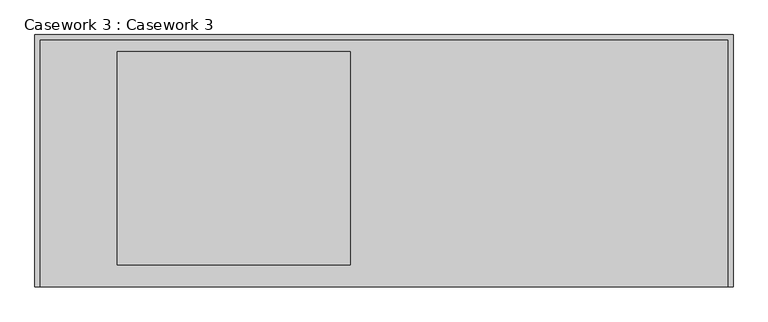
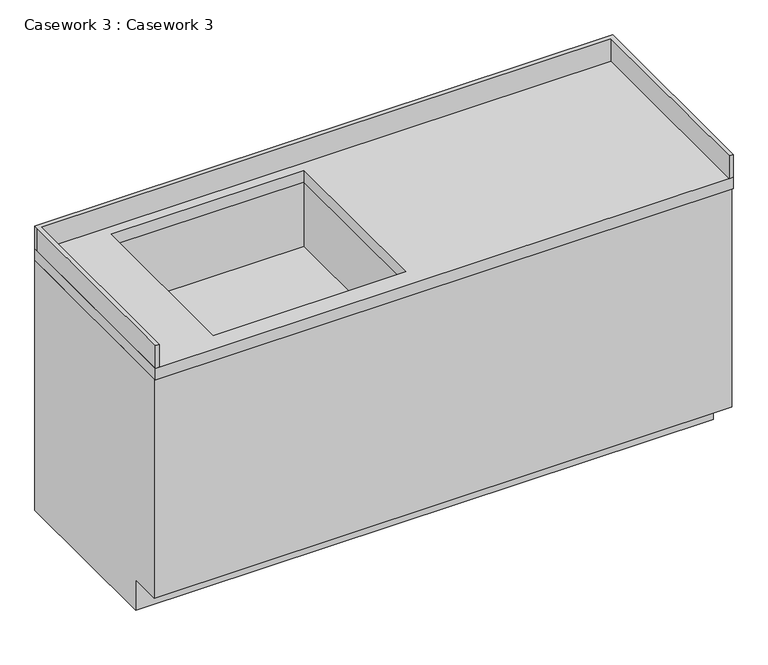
"""IFC4 building model written with IfcOpenShell, lengths in millimetres: furniture geometry, Casework 3 : Casework 3."""

from ifc_helpers import new_model, si_unit, frame, origin, place, context, project, spatial, polyline, outline, extrude, faceted_brep, source, transform, mapped, element, save


def casework_3_casework_3_20c6afee(model_context):
    return source(origin(), model_context, "Body", "SolidModel", [
        extrude(outline(polyline([(4191.0, 14414.3947939), (4191.0, 14427.0947939), (6019.8, 14427.0947939), (6019.8, 13766.6947939), (6007.1, 13766.6947939), (6007.1, 14414.3947939), (4203.7, 14414.3947939), (4203.7, 13766.6947939), (4191.0, 13766.6947939), (4191.0, 14414.3947939)])), frame((0.0, 0.0, 4127.5), z_axis=(0.0, 0.0, 1.0), x_axis=(1.0, 0.0, 0.0)), (0.0, 0.0, 1.0), 76.2),
        extrude(outline(polyline([(6019.8, 14427.0947939), (6019.8, 13766.6947939), (4191.0, 13766.6947939), (4191.0, 14427.0947939), (6019.8, 14427.0947939)]), holes=[polyline([(4406.9, 14382.6447939), (4406.9, 13823.8447939), (5016.5, 13823.8447939), (5016.5, 14382.6447939), (4406.9, 14382.6447939)])]), frame((0.0, 0.0, 4089.4), z_axis=(0.0, 0.0, 1.0), x_axis=(1.0, 0.0, 0.0)), (0.0, 0.0, 1.0), 38.1),
        faceted_brep([(6019.8, 14427.0947939, 4089.4), (4191.0, 14427.0947939, 4089.4), (4191.0, 13773.0447939, 4089.4), (6019.8, 13773.0447939, 4089.4), (4406.9, 13823.8447939, 4089.4), (4406.9, 14382.6447939, 4089.4), (5016.5, 14382.6447939, 4089.4), (5016.5, 13823.8447939, 4089.4), (4191.0, 14427.0947939, 3251.2), (6019.8, 14427.0947939, 3251.2), (6019.8, 13874.6447939, 3251.2), (4191.0, 13874.6447939, 3251.2), (4191.0, 13874.6447939, 3354.3875), (4191.0, 13773.0447939, 3354.3875), (6019.8, 13773.0447939, 3354.3875), (6019.8, 13874.6447939, 3354.3875), (4406.9, 13823.8447939, 3873.5), (5016.5, 13823.8447939, 3873.5), (5016.5, 14382.6447939, 3873.5), (4406.9, 14382.6447939, 3873.5)], [[[0, 1, 2, 3], [4, 5, 6, 7]], [[8, 9, 10, 11]], [[1, 0, 9, 8]], [[2, 1, 8, 11, 12, 13]], [[3, 2, 13, 14]], [[0, 3, 14, 15, 10, 9]], [[15, 12, 11, 10]], [[12, 15, 14, 13]], [[16, 17, 18, 19]], [[16, 19, 5, 4]], [[19, 18, 6, 5]], [[18, 17, 7, 6]], [[17, 16, 4, 7]]]),
    ])


if __name__ == "__main__":
    model = new_model("IFC4")
    model_context = context("Model", 3, world=origin())
    ifc_project = project(units=[si_unit("LENGTHUNIT", "METRE", prefix="MILLI")], contexts=[model_context])
    site = spatial("IfcSite", under=ifc_project)
    building = spatial("IfcBuilding", under=site)
    placement = place(None, origin())
    casework_3_casework_3_shape = casework_3_casework_3_20c6afee(model_context)
    element("IfcFurniture", 1, ObjectType="Casework 3 : Casework 3", at=placement, inside=building, context=model_context, shape_type="MappedRepresentation", body=[
        mapped(casework_3_casework_3_shape, transform((0.0, 0.0, 0.0), x_axis=(1.0, 0.0, 0.0), y_axis=(0.0, 1.0, 0.0), z_axis=(0.0, 0.0, 1.0))),
    ])
    save(model, "model.ifc")
